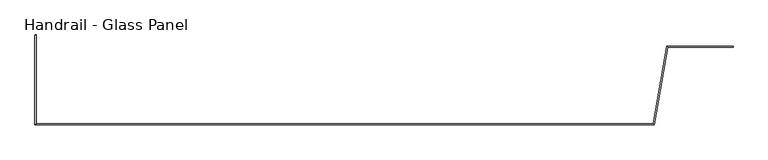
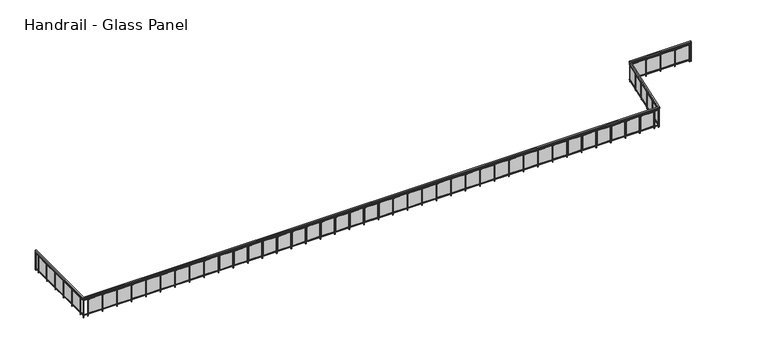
"""IFC4 building model written with IfcOpenShell, lengths in millimetres: railing geometry, Handrail - Glass Panel."""

from ifc_helpers import new_model, si_unit, point, frame, frame_2d, origin, place, context, project, spatial, polyline, circle_curve, trimmed, segment, composite_curve, outline, extrude, faceted_brep, source, transform, mapped, element, save


def handrail_glass_panel_58cbfc2e(model_context):
    return source(origin(), model_context, "Body", "SolidModel", [
        faceted_brep([(-8558.3865899, -9472.6148653, 5564.4), (-8507.5865899, -9472.6148653, 5564.4), (-8507.5865899, -9472.6148653, 5513.6), (-8558.3865899, -9472.6148653, 5513.6), (-8558.3865899, -13123.4148653, 5564.4), (-8507.5865899, -13072.6148653, 5564.4), (-8507.5865899, -13072.6148653, 5513.6), (-8558.3865899, -13123.4148653, 5513.6), (16644.6096821, -13123.4148653, 5564.4), (16601.9834209, -13072.6148653, 5564.4), (16601.9834209, -13072.6148653, 5513.6), (16644.6096821, -13123.4148653, 5513.6), (17200.0396714, -9973.4148653, 5564.4), (17157.4134101, -9922.6148653, 5564.4), (17157.4134101, -9922.6148653, 5513.6), (17200.0396714, -9973.4148653, 5513.6), (19857.4134101, -9973.4148653, 5564.4), (19857.4134101, -9973.4148653, 5513.6), (19857.4134101, -9922.6148653, 5513.6), (19857.4134101, -9922.6148653, 5564.4)], [[[0, 1, 2, 3]], [[1, 0, 4, 5]], [[2, 1, 5, 6]], [[3, 2, 6, 7]], [[0, 3, 7, 4]], [[5, 4, 8, 9]], [[6, 5, 9, 10]], [[7, 6, 10, 11]], [[4, 7, 11, 8]], [[9, 8, 12, 13]], [[10, 9, 13, 14]], [[11, 10, 14, 15]], [[8, 11, 15, 12]], [[16, 17, 18, 19]], [[13, 12, 16, 19]], [[14, 13, 19, 18]], [[15, 14, 18, 17]], [[12, 15, 17, 16]]]),
        faceted_brep([(-8545.6865899, -9472.6148653, 5462.8), (-8520.2865899, -9472.6148653, 5462.8), (-8520.2865899, -9472.6148653, 5437.4), (-8545.6865899, -9472.6148653, 5437.4), (-8545.6865899, -13110.7148653, 5462.8), (-8520.2865899, -13085.3148653, 5462.8), (-8520.2865899, -13085.3148653, 5437.4), (-8545.6865899, -13110.7148653, 5437.4), (16633.9531168, -13110.7148653, 5462.8), (16612.6399862, -13085.3148653, 5462.8), (16612.6399862, -13085.3148653, 5437.4), (16633.9531168, -13110.7148653, 5437.4), (17189.3831061, -9960.7148653, 5462.8), (17168.0699754, -9935.3148653, 5462.8), (17168.0699754, -9935.3148653, 5437.4), (17189.3831061, -9960.7148653, 5437.4), (19857.4134101, -9960.7148653, 5462.8), (19857.4134101, -9960.7148653, 5437.4), (19857.4134101, -9935.3148653, 5437.4), (19857.4134101, -9935.3148653, 5462.8)], [[[0, 1, 2, 3]], [[1, 0, 4, 5]], [[2, 1, 5, 6]], [[3, 2, 6, 7]], [[0, 3, 7, 4]], [[5, 4, 8, 9]], [[6, 5, 9, 10]], [[7, 6, 10, 11]], [[4, 7, 11, 8]], [[9, 8, 12, 13]], [[10, 9, 13, 14]], [[11, 10, 14, 15]], [[8, 11, 15, 12]], [[16, 17, 18, 19]], [[13, 12, 16, 19]], [[14, 13, 19, 18]], [[15, 14, 18, 17]], [[12, 15, 17, 16]]]),
        faceted_brep([(-8545.6865899, -9472.6148653, 4751.6), (-8520.2865899, -9472.6148653, 4751.6), (-8520.2865899, -9472.6148653, 4726.2), (-8545.6865899, -9472.6148653, 4726.2), (-8545.6865899, -13110.7148653, 4751.6), (-8520.2865899, -13085.3148653, 4751.6), (-8520.2865899, -13085.3148653, 4726.2), (-8545.6865899, -13110.7148653, 4726.2), (16633.9531168, -13110.7148653, 4751.6), (16612.6399862, -13085.3148653, 4751.6), (16612.6399862, -13085.3148653, 4726.2), (16633.9531168, -13110.7148653, 4726.2), (17189.3831061, -9960.7148653, 4751.6), (17168.0699754, -9935.3148653, 4751.6), (17168.0699754, -9935.3148653, 4726.2), (17189.3831061, -9960.7148653, 4726.2), (19857.4134101, -9960.7148653, 4751.6), (19857.4134101, -9960.7148653, 4726.2), (19857.4134101, -9935.3148653, 4726.2), (19857.4134101, -9935.3148653, 4751.6)], [[[0, 1, 2, 3]], [[1, 0, 4, 5]], [[2, 1, 5, 6]], [[3, 2, 6, 7]], [[0, 3, 7, 4]], [[5, 4, 8, 9]], [[6, 5, 9, 10]], [[7, 6, 10, 11]], [[4, 7, 11, 8]], [[9, 8, 12, 13]], [[10, 9, 13, 14]], [[11, 10, 14, 15]], [[8, 11, 15, 12]], [[16, 17, 18, 19]], [[13, 12, 16, 19]], [[14, 13, 19, 18]], [[15, 14, 18, 17]], [[12, 15, 17, 16]]]),
        extrude(outline(polyline([(19778.5449754, -9957.5398653), (19778.5449754, -9938.4898653), (19797.5949754, -9938.4898653), (19797.5949754, -9957.5398653), (19778.5449754, -9957.5398653)])), frame((0.0, 0.0, 4650.0), z_axis=(0.0, 0.0, 1.0), x_axis=(1.0, 0.0, 0.0)), (0.0, 0.0, 1.0), 863.6),
        extrude(outline(polyline([(19191.1699754, -9941.6648653), (19749.9699754, -9941.6648653), (19749.9699754, -9948.0148653), (19191.1699754, -9948.0148653), (19191.1699754, -9941.6648653)])), frame((0.0, 0.0, 4777.0), z_axis=(0.0, 0.0, 1.0), x_axis=(1.0, 0.0, 0.0)), (0.0, 0.0, 1.0), 635.0),
        extrude(outline(polyline([(19143.5449754, -9957.5398653), (19143.5449754, -9938.4898653), (19162.5949754, -9938.4898653), (19162.5949754, -9957.5398653), (19143.5449754, -9957.5398653)])), frame((0.0, 0.0, 4650.0), z_axis=(0.0, 0.0, 1.0), x_axis=(1.0, 0.0, 0.0)), (0.0, 0.0, 1.0), 863.6),
        extrude(outline(polyline([(18556.1699754, -9941.6648653), (19114.9699754, -9941.6648653), (19114.9699754, -9948.0148653), (18556.1699754, -9948.0148653), (18556.1699754, -9941.6648653)])), frame((0.0, 0.0, 4777.0), z_axis=(0.0, 0.0, 1.0), x_axis=(1.0, 0.0, 0.0)), (0.0, 0.0, 1.0), 635.0),
        extrude(outline(polyline([(18508.5449754, -9957.5398653), (18508.5449754, -9938.4898653), (18527.5949754, -9938.4898653), (18527.5949754, -9957.5398653), (18508.5449754, -9957.5398653)])), frame((0.0, 0.0, 4650.0), z_axis=(0.0, 0.0, 1.0), x_axis=(1.0, 0.0, 0.0)), (0.0, 0.0, 1.0), 863.6),
        extrude(outline(polyline([(17921.1699754, -9941.6648653), (18479.9699754, -9941.6648653), (18479.9699754, -9948.0148653), (17921.1699754, -9948.0148653), (17921.1699754, -9941.6648653)])), frame((0.0, 0.0, 4777.0), z_axis=(0.0, 0.0, 1.0), x_axis=(1.0, 0.0, 0.0)), (0.0, 0.0, 1.0), 635.0),
        extrude(outline(polyline([(17873.5449754, -9957.5398653), (17873.5449754, -9938.4898653), (17892.5949754, -9938.4898653), (17892.5949754, -9957.5398653), (17873.5449754, -9957.5398653)])), frame((0.0, 0.0, 4650.0), z_axis=(0.0, 0.0, 1.0), x_axis=(1.0, 0.0, 0.0)), (0.0, 0.0, 1.0), 863.6),
        extrude(outline(polyline([(17286.1699754, -9941.6648653), (17844.9699754, -9941.6648653), (17844.9699754, -9948.0148653), (17286.1699754, -9948.0148653), (17286.1699754, -9941.6648653)])), frame((0.0, 0.0, 4777.0), z_axis=(0.0, 0.0, 1.0), x_axis=(1.0, 0.0, 0.0)), (0.0, 0.0, 1.0), 635.0),
        extrude(outline(polyline([(17238.5449754, -9957.5398653), (17238.5449754, -9938.4898653), (17257.5949754, -9938.4898653), (17257.5949754, -9957.5398653), (17238.5449754, -9957.5398653)])), frame((0.0, 0.0, 4650.0), z_axis=(0.0, 0.0, 1.0), x_axis=(1.0, 0.0, 0.0)), (0.0, 0.0, 1.0), 863.6),
        extrude(outline(polyline([(17184.4043231, -9970.6668501), (17165.6437354, -9967.3588523), (17168.9517332, -9948.5982646), (17187.7123209, -9951.9062624), (17184.4043231, -9970.6668501)])), frame((0.0, 0.0, 4650.0), z_axis=(0.0, 0.0, 1.0), x_axis=(1.0, 0.0, 0.0)), (0.0, 0.0, 1.0), 863.6),
        extrude(outline(polyline([(17066.7739017, -10546.3616392), (17163.8085034, -9996.0510668), (17170.0620326, -9997.1537327), (17073.0274309, -10547.4643051), (17066.7739017, -10546.3616392)])), frame((0.0, 0.0, 4777.0), z_axis=(0.0, 0.0, 1.0), x_axis=(1.0, 0.0, 0.0)), (0.0, 0.0, 1.0), 635.0),
        extrude(outline(polyline([(17074.1377303, -10596.0197733), (17055.3771426, -10592.7117755), (17058.6851404, -10573.9511878), (17077.4457281, -10577.2591856), (17074.1377303, -10596.0197733)])), frame((0.0, 0.0, 4650.0), z_axis=(0.0, 0.0, 1.0), x_axis=(1.0, 0.0, 0.0)), (0.0, 0.0, 1.0), 863.6),
        extrude(outline(polyline([(16956.5073089, -11171.7145624), (17053.5419105, -10621.40399), (17059.7954398, -10622.5066559), (16962.7608381, -11172.8172283), (16956.5073089, -11171.7145624)])), frame((0.0, 0.0, 4777.0), z_axis=(0.0, 0.0, 1.0), x_axis=(1.0, 0.0, 0.0)), (0.0, 0.0, 1.0), 635.0),
        extrude(outline(polyline([(16963.8711375, -11221.3726964), (16945.1105498, -11218.0646986), (16948.4185476, -11199.3041109), (16967.1791353, -11202.6121087), (16963.8711375, -11221.3726964)])), frame((0.0, 0.0, 4650.0), z_axis=(0.0, 0.0, 1.0), x_axis=(1.0, 0.0, 0.0)), (0.0, 0.0, 1.0), 863.6),
        extrude(outline(polyline([(16846.2407161, -11797.0674855), (16943.2753177, -11246.7569131), (16949.528847, -11247.8595791), (16852.4942453, -11798.1701515), (16846.2407161, -11797.0674855)])), frame((0.0, 0.0, 4777.0), z_axis=(0.0, 0.0, 1.0), x_axis=(1.0, 0.0, 0.0)), (0.0, 0.0, 1.0), 635.0),
        extrude(outline(polyline([(16853.6045447, -11846.7256196), (16834.843957, -11843.4176218), (16838.1519548, -11824.6570341), (16856.9125425, -11827.9650319), (16853.6045447, -11846.7256196)])), frame((0.0, 0.0, 4650.0), z_axis=(0.0, 0.0, 1.0), x_axis=(1.0, 0.0, 0.0)), (0.0, 0.0, 1.0), 863.6),
        extrude(outline(polyline([(16735.9741232, -12422.4204087), (16833.0087249, -11872.1098363), (16839.2622541, -11873.2125022), (16742.2276525, -12423.5230746), (16735.9741232, -12422.4204087)])), frame((0.0, 0.0, 4777.0), z_axis=(0.0, 0.0, 1.0), x_axis=(1.0, 0.0, 0.0)), (0.0, 0.0, 1.0), 635.0),
        extrude(outline(polyline([(16743.3379519, -12472.0785427), (16724.5773642, -12468.770545), (16727.8853619, -12450.0099573), (16746.6459496, -12453.317955), (16743.3379519, -12472.0785427)])), frame((0.0, 0.0, 4650.0), z_axis=(0.0, 0.0, 1.0), x_axis=(1.0, 0.0, 0.0)), (0.0, 0.0, 1.0), 863.6),
        extrude(outline(polyline([(16625.7075304, -13047.7733318), (16722.7421321, -12497.4627595), (16728.9956613, -12498.5654254), (16631.9610596, -13048.8759978), (16625.7075304, -13047.7733318)])), frame((0.0, 0.0, 4777.0), z_axis=(0.0, 0.0, 1.0), x_axis=(1.0, 0.0, 0.0)), (0.0, 0.0, 1.0), 635.0),
        extrude(outline(polyline([(16633.071359, -13097.4314659), (16614.3107713, -13094.1234681), (16617.6187691, -13075.3628804), (16636.3793568, -13078.6708782), (16633.071359, -13097.4314659)])), frame((0.0, 0.0, 4650.0), z_axis=(0.0, 0.0, 1.0), x_axis=(1.0, 0.0, 0.0)), (0.0, 0.0, 1.0), 863.6),
        extrude(outline(polyline([(16418.1299808, -13107.5398653), (16418.1299808, -13088.4898653), (16437.1799808, -13088.4898653), (16437.1799808, -13107.5398653), (16418.1299808, -13107.5398653)])), frame((0.0, 0.0, 4650.0), z_axis=(0.0, 0.0, 1.0), x_axis=(1.0, 0.0, 0.0)), (0.0, 0.0, 1.0), 863.6),
        extrude(outline(polyline([(15830.7549808, -13091.6648653), (16389.5549808, -13091.6648653), (16389.5549808, -13098.0148653), (15830.7549808, -13098.0148653), (15830.7549808, -13091.6648653)])), frame((0.0, 0.0, 4777.0), z_axis=(0.0, 0.0, 1.0), x_axis=(1.0, 0.0, 0.0)), (0.0, 0.0, 1.0), 635.0),
        extrude(outline(polyline([(15783.1299808, -13107.5398653), (15783.1299808, -13088.4898653), (15802.1799808, -13088.4898653), (15802.1799808, -13107.5398653), (15783.1299808, -13107.5398653)])), frame((0.0, 0.0, 4650.0), z_axis=(0.0, 0.0, 1.0), x_axis=(1.0, 0.0, 0.0)), (0.0, 0.0, 1.0), 863.6),
        extrude(outline(polyline([(15195.7549808, -13091.6648653), (15754.5549808, -13091.6648653), (15754.5549808, -13098.0148653), (15195.7549808, -13098.0148653), (15195.7549808, -13091.6648653)])), frame((0.0, 0.0, 4777.0), z_axis=(0.0, 0.0, 1.0), x_axis=(1.0, 0.0, 0.0)), (0.0, 0.0, 1.0), 635.0),
        extrude(outline(polyline([(15148.1299808, -13107.5398653), (15148.1299808, -13088.4898653), (15167.1799808, -13088.4898653), (15167.1799808, -13107.5398653), (15148.1299808, -13107.5398653)])), frame((0.0, 0.0, 4650.0), z_axis=(0.0, 0.0, 1.0), x_axis=(1.0, 0.0, 0.0)), (0.0, 0.0, 1.0), 863.6),
        extrude(outline(polyline([(14560.7549808, -13091.6648653), (15119.5549808, -13091.6648653), (15119.5549808, -13098.0148653), (14560.7549808, -13098.0148653), (14560.7549808, -13091.6648653)])), frame((0.0, 0.0, 4777.0), z_axis=(0.0, 0.0, 1.0), x_axis=(1.0, 0.0, 0.0)), (0.0, 0.0, 1.0), 635.0),
        extrude(outline(polyline([(14513.1299808, -13107.5398653), (14513.1299808, -13088.4898653), (14532.1799808, -13088.4898653), (14532.1799808, -13107.5398653), (14513.1299808, -13107.5398653)])), frame((0.0, 0.0, 4650.0), z_axis=(0.0, 0.0, 1.0), x_axis=(1.0, 0.0, 0.0)), (0.0, 0.0, 1.0), 863.6),
        extrude(outline(polyline([(13925.7549808, -13091.6648653), (14484.5549808, -13091.6648653), (14484.5549808, -13098.0148653), (13925.7549808, -13098.0148653), (13925.7549808, -13091.6648653)])), frame((0.0, 0.0, 4777.0), z_axis=(0.0, 0.0, 1.0), x_axis=(1.0, 0.0, 0.0)), (0.0, 0.0, 1.0), 635.0),
        extrude(outline(polyline([(13878.1299808, -13107.5398653), (13878.1299808, -13088.4898653), (13897.1799808, -13088.4898653), (13897.1799808, -13107.5398653), (13878.1299808, -13107.5398653)])), frame((0.0, 0.0, 4650.0), z_axis=(0.0, 0.0, 1.0), x_axis=(1.0, 0.0, 0.0)), (0.0, 0.0, 1.0), 863.6),
        extrude(outline(polyline([(13290.7549808, -13091.6648653), (13849.5549808, -13091.6648653), (13849.5549808, -13098.0148653), (13290.7549808, -13098.0148653), (13290.7549808, -13091.6648653)])), frame((0.0, 0.0, 4777.0), z_axis=(0.0, 0.0, 1.0), x_axis=(1.0, 0.0, 0.0)), (0.0, 0.0, 1.0), 635.0),
        extrude(outline(polyline([(13243.1299808, -13107.5398653), (13243.1299808, -13088.4898653), (13262.1799808, -13088.4898653), (13262.1799808, -13107.5398653), (13243.1299808, -13107.5398653)])), frame((0.0, 0.0, 4650.0), z_axis=(0.0, 0.0, 1.0), x_axis=(1.0, 0.0, 0.0)), (0.0, 0.0, 1.0), 863.6),
        extrude(outline(polyline([(12655.7549808, -13091.6648653), (13214.5549808, -13091.6648653), (13214.5549808, -13098.0148653), (12655.7549808, -13098.0148653), (12655.7549808, -13091.6648653)])), frame((0.0, 0.0, 4777.0), z_axis=(0.0, 0.0, 1.0), x_axis=(1.0, 0.0, 0.0)), (0.0, 0.0, 1.0), 635.0),
        extrude(outline(polyline([(12608.1299808, -13107.5398653), (12608.1299808, -13088.4898653), (12627.1799808, -13088.4898653), (12627.1799808, -13107.5398653), (12608.1299808, -13107.5398653)])), frame((0.0, 0.0, 4650.0), z_axis=(0.0, 0.0, 1.0), x_axis=(1.0, 0.0, 0.0)), (0.0, 0.0, 1.0), 863.6),
        extrude(outline(polyline([(12020.7549808, -13091.6648653), (12579.5549808, -13091.6648653), (12579.5549808, -13098.0148653), (12020.7549808, -13098.0148653), (12020.7549808, -13091.6648653)])), frame((0.0, 0.0, 4777.0), z_axis=(0.0, 0.0, 1.0), x_axis=(1.0, 0.0, 0.0)), (0.0, 0.0, 1.0), 635.0),
        extrude(outline(polyline([(11973.1299808, -13107.5398653), (11973.1299808, -13088.4898653), (11992.1799808, -13088.4898653), (11992.1799808, -13107.5398653), (11973.1299808, -13107.5398653)])), frame((0.0, 0.0, 4650.0), z_axis=(0.0, 0.0, 1.0), x_axis=(1.0, 0.0, 0.0)), (0.0, 0.0, 1.0), 863.6),
        extrude(outline(polyline([(11385.7549808, -13091.6648653), (11944.5549808, -13091.6648653), (11944.5549808, -13098.0148653), (11385.7549808, -13098.0148653), (11385.7549808, -13091.6648653)])), frame((0.0, 0.0, 4777.0), z_axis=(0.0, 0.0, 1.0), x_axis=(1.0, 0.0, 0.0)), (0.0, 0.0, 1.0), 635.0),
        extrude(outline(polyline([(11338.1299808, -13107.5398653), (11338.1299808, -13088.4898653), (11357.1799808, -13088.4898653), (11357.1799808, -13107.5398653), (11338.1299808, -13107.5398653)])), frame((0.0, 0.0, 4650.0), z_axis=(0.0, 0.0, 1.0), x_axis=(1.0, 0.0, 0.0)), (0.0, 0.0, 1.0), 863.6),
        extrude(outline(polyline([(10750.7549808, -13091.6648653), (11309.5549808, -13091.6648653), (11309.5549808, -13098.0148653), (10750.7549808, -13098.0148653), (10750.7549808, -13091.6648653)])), frame((0.0, 0.0, 4777.0), z_axis=(0.0, 0.0, 1.0), x_axis=(1.0, 0.0, 0.0)), (0.0, 0.0, 1.0), 635.0),
        extrude(outline(polyline([(10703.1299808, -13107.5398653), (10703.1299808, -13088.4898653), (10722.1799808, -13088.4898653), (10722.1799808, -13107.5398653), (10703.1299808, -13107.5398653)])), frame((0.0, 0.0, 4650.0), z_axis=(0.0, 0.0, 1.0), x_axis=(1.0, 0.0, 0.0)), (0.0, 0.0, 1.0), 863.6),
        extrude(outline(polyline([(10115.7549808, -13091.6648653), (10674.5549808, -13091.6648653), (10674.5549808, -13098.0148653), (10115.7549808, -13098.0148653), (10115.7549808, -13091.6648653)])), frame((0.0, 0.0, 4777.0), z_axis=(0.0, 0.0, 1.0), x_axis=(1.0, 0.0, 0.0)), (0.0, 0.0, 1.0), 635.0),
        extrude(outline(polyline([(10068.1299808, -13107.5398653), (10068.1299808, -13088.4898653), (10087.1799808, -13088.4898653), (10087.1799808, -13107.5398653), (10068.1299808, -13107.5398653)])), frame((0.0, 0.0, 4650.0), z_axis=(0.0, 0.0, 1.0), x_axis=(1.0, 0.0, 0.0)), (0.0, 0.0, 1.0), 863.6),
        extrude(outline(polyline([(9480.7549808, -13091.6648653), (10039.5549808, -13091.6648653), (10039.5549808, -13098.0148653), (9480.7549808, -13098.0148653), (9480.7549808, -13091.6648653)])), frame((0.0, 0.0, 4777.0), z_axis=(0.0, 0.0, 1.0), x_axis=(1.0, 0.0, 0.0)), (0.0, 0.0, 1.0), 635.0),
        extrude(outline(polyline([(9433.1299808, -13107.5398653), (9433.1299808, -13088.4898653), (9452.1799808, -13088.4898653), (9452.1799808, -13107.5398653), (9433.1299808, -13107.5398653)])), frame((0.0, 0.0, 4650.0), z_axis=(0.0, 0.0, 1.0), x_axis=(1.0, 0.0, 0.0)), (0.0, 0.0, 1.0), 863.6),
        extrude(outline(polyline([(8845.7549808, -13091.6648653), (9404.5549808, -13091.6648653), (9404.5549808, -13098.0148653), (8845.7549808, -13098.0148653), (8845.7549808, -13091.6648653)])), frame((0.0, 0.0, 4777.0), z_axis=(0.0, 0.0, 1.0), x_axis=(1.0, 0.0, 0.0)), (0.0, 0.0, 1.0), 635.0),
        extrude(outline(polyline([(8798.1299808, -13107.5398653), (8798.1299808, -13088.4898653), (8817.1799808, -13088.4898653), (8817.1799808, -13107.5398653), (8798.1299808, -13107.5398653)])), frame((0.0, 0.0, 4650.0), z_axis=(0.0, 0.0, 1.0), x_axis=(1.0, 0.0, 0.0)), (0.0, 0.0, 1.0), 863.6),
        extrude(outline(polyline([(8210.7549808, -13091.6648653), (8769.5549808, -13091.6648653), (8769.5549808, -13098.0148653), (8210.7549808, -13098.0148653), (8210.7549808, -13091.6648653)])), frame((0.0, 0.0, 4777.0), z_axis=(0.0, 0.0, 1.0), x_axis=(1.0, 0.0, 0.0)), (0.0, 0.0, 1.0), 635.0),
        extrude(outline(polyline([(8163.1299808, -13107.5398653), (8163.1299808, -13088.4898653), (8182.1799808, -13088.4898653), (8182.1799808, -13107.5398653), (8163.1299808, -13107.5398653)])), frame((0.0, 0.0, 4650.0), z_axis=(0.0, 0.0, 1.0), x_axis=(1.0, 0.0, 0.0)), (0.0, 0.0, 1.0), 863.6),
        extrude(outline(polyline([(7575.7549808, -13091.6648653), (8134.5549808, -13091.6648653), (8134.5549808, -13098.0148653), (7575.7549808, -13098.0148653), (7575.7549808, -13091.6648653)])), frame((0.0, 0.0, 4777.0), z_axis=(0.0, 0.0, 1.0), x_axis=(1.0, 0.0, 0.0)), (0.0, 0.0, 1.0), 635.0),
        extrude(outline(polyline([(7528.1299808, -13107.5398653), (7528.1299808, -13088.4898653), (7547.1799808, -13088.4898653), (7547.1799808, -13107.5398653), (7528.1299808, -13107.5398653)])), frame((0.0, 0.0, 4650.0), z_axis=(0.0, 0.0, 1.0), x_axis=(1.0, 0.0, 0.0)), (0.0, 0.0, 1.0), 863.6),
        extrude(outline(polyline([(6940.7549808, -13091.6648653), (7499.5549808, -13091.6648653), (7499.5549808, -13098.0148653), (6940.7549808, -13098.0148653), (6940.7549808, -13091.6648653)])), frame((0.0, 0.0, 4777.0), z_axis=(0.0, 0.0, 1.0), x_axis=(1.0, 0.0, 0.0)), (0.0, 0.0, 1.0), 635.0),
        extrude(outline(polyline([(6893.1299808, -13107.5398653), (6893.1299808, -13088.4898653), (6912.1799808, -13088.4898653), (6912.1799808, -13107.5398653), (6893.1299808, -13107.5398653)])), frame((0.0, 0.0, 4650.0), z_axis=(0.0, 0.0, 1.0), x_axis=(1.0, 0.0, 0.0)), (0.0, 0.0, 1.0), 863.6),
        extrude(outline(polyline([(6305.7549808, -13091.6648653), (6864.5549808, -13091.6648653), (6864.5549808, -13098.0148653), (6305.7549808, -13098.0148653), (6305.7549808, -13091.6648653)])), frame((0.0, 0.0, 4777.0), z_axis=(0.0, 0.0, 1.0), x_axis=(1.0, 0.0, 0.0)), (0.0, 0.0, 1.0), 635.0),
        extrude(outline(polyline([(6258.1299808, -13107.5398653), (6258.1299808, -13088.4898653), (6277.1799808, -13088.4898653), (6277.1799808, -13107.5398653), (6258.1299808, -13107.5398653)])), frame((0.0, 0.0, 4650.0), z_axis=(0.0, 0.0, 1.0), x_axis=(1.0, 0.0, 0.0)), (0.0, 0.0, 1.0), 863.6),
        extrude(outline(polyline([(5670.7549808, -13091.6648653), (6229.5549808, -13091.6648653), (6229.5549808, -13098.0148653), (5670.7549808, -13098.0148653), (5670.7549808, -13091.6648653)])), frame((0.0, 0.0, 4777.0), z_axis=(0.0, 0.0, 1.0), x_axis=(1.0, 0.0, 0.0)), (0.0, 0.0, 1.0), 635.0),
        extrude(outline(polyline([(5623.1299808, -13107.5398653), (5623.1299808, -13088.4898653), (5642.1799808, -13088.4898653), (5642.1799808, -13107.5398653), (5623.1299808, -13107.5398653)])), frame((0.0, 0.0, 4650.0), z_axis=(0.0, 0.0, 1.0), x_axis=(1.0, 0.0, 0.0)), (0.0, 0.0, 1.0), 863.6),
        extrude(outline(polyline([(5035.7549808, -13091.6648653), (5594.5549808, -13091.6648653), (5594.5549808, -13098.0148653), (5035.7549808, -13098.0148653), (5035.7549808, -13091.6648653)])), frame((0.0, 0.0, 4777.0), z_axis=(0.0, 0.0, 1.0), x_axis=(1.0, 0.0, 0.0)), (0.0, 0.0, 1.0), 635.0),
        extrude(outline(polyline([(4988.1299808, -13107.5398653), (4988.1299808, -13088.4898653), (5007.1799808, -13088.4898653), (5007.1799808, -13107.5398653), (4988.1299808, -13107.5398653)])), frame((0.0, 0.0, 4650.0), z_axis=(0.0, 0.0, 1.0), x_axis=(1.0, 0.0, 0.0)), (0.0, 0.0, 1.0), 863.6),
        extrude(outline(polyline([(4400.7549808, -13091.6648653), (4959.5549808, -13091.6648653), (4959.5549808, -13098.0148653), (4400.7549808, -13098.0148653), (4400.7549808, -13091.6648653)])), frame((0.0, 0.0, 4777.0), z_axis=(0.0, 0.0, 1.0), x_axis=(1.0, 0.0, 0.0)), (0.0, 0.0, 1.0), 635.0),
        extrude(outline(polyline([(4353.1299808, -13107.5398653), (4353.1299808, -13088.4898653), (4372.1799808, -13088.4898653), (4372.1799808, -13107.5398653), (4353.1299808, -13107.5398653)])), frame((0.0, 0.0, 4650.0), z_axis=(0.0, 0.0, 1.0), x_axis=(1.0, 0.0, 0.0)), (0.0, 0.0, 1.0), 863.6),
        extrude(outline(polyline([(3765.7549808, -13091.6648653), (4324.5549808, -13091.6648653), (4324.5549808, -13098.0148653), (3765.7549808, -13098.0148653), (3765.7549808, -13091.6648653)])), frame((0.0, 0.0, 4777.0), z_axis=(0.0, 0.0, 1.0), x_axis=(1.0, 0.0, 0.0)), (0.0, 0.0, 1.0), 635.0),
        extrude(outline(polyline([(3718.1299808, -13107.5398653), (3718.1299808, -13088.4898653), (3737.1799808, -13088.4898653), (3737.1799808, -13107.5398653), (3718.1299808, -13107.5398653)])), frame((0.0, 0.0, 4650.0), z_axis=(0.0, 0.0, 1.0), x_axis=(1.0, 0.0, 0.0)), (0.0, 0.0, 1.0), 863.6),
        extrude(outline(polyline([(3130.7549808, -13091.6648653), (3689.5549808, -13091.6648653), (3689.5549808, -13098.0148653), (3130.7549808, -13098.0148653), (3130.7549808, -13091.6648653)])), frame((0.0, 0.0, 4777.0), z_axis=(0.0, 0.0, 1.0), x_axis=(1.0, 0.0, 0.0)), (0.0, 0.0, 1.0), 635.0),
        extrude(outline(polyline([(3083.1299808, -13107.5398653), (3083.1299808, -13088.4898653), (3102.1799808, -13088.4898653), (3102.1799808, -13107.5398653), (3083.1299808, -13107.5398653)])), frame((0.0, 0.0, 4650.0), z_axis=(0.0, 0.0, 1.0), x_axis=(1.0, 0.0, 0.0)), (0.0, 0.0, 1.0), 863.6),
        extrude(outline(polyline([(2495.7549808, -13091.6648653), (3054.5549808, -13091.6648653), (3054.5549808, -13098.0148653), (2495.7549808, -13098.0148653), (2495.7549808, -13091.6648653)])), frame((0.0, 0.0, 4777.0), z_axis=(0.0, 0.0, 1.0), x_axis=(1.0, 0.0, 0.0)), (0.0, 0.0, 1.0), 635.0),
        extrude(outline(polyline([(2448.1299808, -13107.5398653), (2448.1299808, -13088.4898653), (2467.1799808, -13088.4898653), (2467.1799808, -13107.5398653), (2448.1299808, -13107.5398653)])), frame((0.0, 0.0, 4650.0), z_axis=(0.0, 0.0, 1.0), x_axis=(1.0, 0.0, 0.0)), (0.0, 0.0, 1.0), 863.6),
        extrude(outline(polyline([(1860.7549808, -13091.6648653), (2419.5549808, -13091.6648653), (2419.5549808, -13098.0148653), (1860.7549808, -13098.0148653), (1860.7549808, -13091.6648653)])), frame((0.0, 0.0, 4777.0), z_axis=(0.0, 0.0, 1.0), x_axis=(1.0, 0.0, 0.0)), (0.0, 0.0, 1.0), 635.0),
        extrude(outline(polyline([(1813.1299808, -13107.5398653), (1813.1299808, -13088.4898653), (1832.1799808, -13088.4898653), (1832.1799808, -13107.5398653), (1813.1299808, -13107.5398653)])), frame((0.0, 0.0, 4650.0), z_axis=(0.0, 0.0, 1.0), x_axis=(1.0, 0.0, 0.0)), (0.0, 0.0, 1.0), 863.6),
        extrude(outline(polyline([(1225.7549808, -13091.6648653), (1784.5549808, -13091.6648653), (1784.5549808, -13098.0148653), (1225.7549808, -13098.0148653), (1225.7549808, -13091.6648653)])), frame((0.0, 0.0, 4777.0), z_axis=(0.0, 0.0, 1.0), x_axis=(1.0, 0.0, 0.0)), (0.0, 0.0, 1.0), 635.0),
        extrude(outline(polyline([(1178.1299808, -13107.5398653), (1178.1299808, -13088.4898653), (1197.1799808, -13088.4898653), (1197.1799808, -13107.5398653), (1178.1299808, -13107.5398653)])), frame((0.0, 0.0, 4650.0), z_axis=(0.0, 0.0, 1.0), x_axis=(1.0, 0.0, 0.0)), (0.0, 0.0, 1.0), 863.6),
        extrude(outline(polyline([(590.7549808, -13091.6648653), (1149.5549808, -13091.6648653), (1149.5549808, -13098.0148653), (590.7549808, -13098.0148653), (590.7549808, -13091.6648653)])), frame((0.0, 0.0, 4777.0), z_axis=(0.0, 0.0, 1.0), x_axis=(1.0, 0.0, 0.0)), (0.0, 0.0, 1.0), 635.0),
        extrude(outline(polyline([(543.1299808, -13107.5398653), (543.1299808, -13088.4898653), (562.1799808, -13088.4898653), (562.1799808, -13107.5398653), (543.1299808, -13107.5398653)])), frame((0.0, 0.0, 4650.0), z_axis=(0.0, 0.0, 1.0), x_axis=(1.0, 0.0, 0.0)), (0.0, 0.0, 1.0), 863.6),
        extrude(outline(polyline([(-44.2450192, -13091.6648653), (514.5549808, -13091.6648653), (514.5549808, -13098.0148653), (-44.2450192, -13098.0148653), (-44.2450192, -13091.6648653)])), frame((0.0, 0.0, 4777.0), z_axis=(0.0, 0.0, 1.0), x_axis=(1.0, 0.0, 0.0)), (0.0, 0.0, 1.0), 635.0),
        extrude(outline(polyline([(-91.8700192, -13107.5398653), (-91.8700192, -13088.4898653), (-72.8200192, -13088.4898653), (-72.8200192, -13107.5398653), (-91.8700192, -13107.5398653)])), frame((0.0, 0.0, 4650.0), z_axis=(0.0, 0.0, 1.0), x_axis=(1.0, 0.0, 0.0)), (0.0, 0.0, 1.0), 863.6),
        extrude(outline(polyline([(-679.2450192, -13091.6648653), (-120.4450192, -13091.6648653), (-120.4450192, -13098.0148653), (-679.2450192, -13098.0148653), (-679.2450192, -13091.6648653)])), frame((0.0, 0.0, 4777.0), z_axis=(0.0, 0.0, 1.0), x_axis=(1.0, 0.0, 0.0)), (0.0, 0.0, 1.0), 635.0),
        extrude(outline(polyline([(-726.8700192, -13107.5398653), (-726.8700192, -13088.4898653), (-707.8200192, -13088.4898653), (-707.8200192, -13107.5398653), (-726.8700192, -13107.5398653)])), frame((0.0, 0.0, 4650.0), z_axis=(0.0, 0.0, 1.0), x_axis=(1.0, 0.0, 0.0)), (0.0, 0.0, 1.0), 863.6),
        extrude(outline(polyline([(-1314.2450192, -13091.6648653), (-755.4450192, -13091.6648653), (-755.4450192, -13098.0148653), (-1314.2450192, -13098.0148653), (-1314.2450192, -13091.6648653)])), frame((0.0, 0.0, 4777.0), z_axis=(0.0, 0.0, 1.0), x_axis=(1.0, 0.0, 0.0)), (0.0, 0.0, 1.0), 635.0),
        extrude(outline(polyline([(-1361.8700192, -13107.5398653), (-1361.8700192, -13088.4898653), (-1342.8200192, -13088.4898653), (-1342.8200192, -13107.5398653), (-1361.8700192, -13107.5398653)])), frame((0.0, 0.0, 4650.0), z_axis=(0.0, 0.0, 1.0), x_axis=(1.0, 0.0, 0.0)), (0.0, 0.0, 1.0), 863.6),
        extrude(outline(polyline([(-1949.2450192, -13091.6648653), (-1390.4450192, -13091.6648653), (-1390.4450192, -13098.0148653), (-1949.2450192, -13098.0148653), (-1949.2450192, -13091.6648653)])), frame((0.0, 0.0, 4777.0), z_axis=(0.0, 0.0, 1.0), x_axis=(1.0, 0.0, 0.0)), (0.0, 0.0, 1.0), 635.0),
        extrude(outline(polyline([(-1996.8700192, -13107.5398653), (-1996.8700192, -13088.4898653), (-1977.8200192, -13088.4898653), (-1977.8200192, -13107.5398653), (-1996.8700192, -13107.5398653)])), frame((0.0, 0.0, 4650.0), z_axis=(0.0, 0.0, 1.0), x_axis=(1.0, 0.0, 0.0)), (0.0, 0.0, 1.0), 863.6),
        extrude(outline(polyline([(-2584.2450192, -13091.6648653), (-2025.4450192, -13091.6648653), (-2025.4450192, -13098.0148653), (-2584.2450192, -13098.0148653), (-2584.2450192, -13091.6648653)])), frame((0.0, 0.0, 4777.0), z_axis=(0.0, 0.0, 1.0), x_axis=(1.0, 0.0, 0.0)), (0.0, 0.0, 1.0), 635.0),
        extrude(outline(polyline([(-2631.8700192, -13107.5398653), (-2631.8700192, -13088.4898653), (-2612.8200192, -13088.4898653), (-2612.8200192, -13107.5398653), (-2631.8700192, -13107.5398653)])), frame((0.0, 0.0, 4650.0), z_axis=(0.0, 0.0, 1.0), x_axis=(1.0, 0.0, 0.0)), (0.0, 0.0, 1.0), 863.6),
        extrude(outline(polyline([(-3219.2450192, -13091.6648653), (-2660.4450192, -13091.6648653), (-2660.4450192, -13098.0148653), (-3219.2450192, -13098.0148653), (-3219.2450192, -13091.6648653)])), frame((0.0, 0.0, 4777.0), z_axis=(0.0, 0.0, 1.0), x_axis=(1.0, 0.0, 0.0)), (0.0, 0.0, 1.0), 635.0),
        extrude(outline(polyline([(-3266.8700192, -13107.5398653), (-3266.8700192, -13088.4898653), (-3247.8200192, -13088.4898653), (-3247.8200192, -13107.5398653), (-3266.8700192, -13107.5398653)])), frame((0.0, 0.0, 4650.0), z_axis=(0.0, 0.0, 1.0), x_axis=(1.0, 0.0, 0.0)), (0.0, 0.0, 1.0), 863.6),
        extrude(outline(polyline([(-3854.2450192, -13091.6648653), (-3295.4450192, -13091.6648653), (-3295.4450192, -13098.0148653), (-3854.2450192, -13098.0148653), (-3854.2450192, -13091.6648653)])), frame((0.0, 0.0, 4777.0), z_axis=(0.0, 0.0, 1.0), x_axis=(1.0, 0.0, 0.0)), (0.0, 0.0, 1.0), 635.0),
        extrude(outline(polyline([(-3901.8700192, -13107.5398653), (-3901.8700192, -13088.4898653), (-3882.8200192, -13088.4898653), (-3882.8200192, -13107.5398653), (-3901.8700192, -13107.5398653)])), frame((0.0, 0.0, 4650.0), z_axis=(0.0, 0.0, 1.0), x_axis=(1.0, 0.0, 0.0)), (0.0, 0.0, 1.0), 863.6),
        extrude(outline(polyline([(-4489.2450192, -13091.6648653), (-3930.4450192, -13091.6648653), (-3930.4450192, -13098.0148653), (-4489.2450192, -13098.0148653), (-4489.2450192, -13091.6648653)])), frame((0.0, 0.0, 4777.0), z_axis=(0.0, 0.0, 1.0), x_axis=(1.0, 0.0, 0.0)), (0.0, 0.0, 1.0), 635.0),
        extrude(outline(polyline([(-4536.8700192, -13107.5398653), (-4536.8700192, -13088.4898653), (-4517.8200192, -13088.4898653), (-4517.8200192, -13107.5398653), (-4536.8700192, -13107.5398653)])), frame((0.0, 0.0, 4650.0), z_axis=(0.0, 0.0, 1.0), x_axis=(1.0, 0.0, 0.0)), (0.0, 0.0, 1.0), 863.6),
        extrude(outline(polyline([(-5124.2450192, -13091.6648653), (-4565.4450192, -13091.6648653), (-4565.4450192, -13098.0148653), (-5124.2450192, -13098.0148653), (-5124.2450192, -13091.6648653)])), frame((0.0, 0.0, 4777.0), z_axis=(0.0, 0.0, 1.0), x_axis=(1.0, 0.0, 0.0)), (0.0, 0.0, 1.0), 635.0),
        extrude(outline(polyline([(-5171.8700192, -13107.5398653), (-5171.8700192, -13088.4898653), (-5152.8200192, -13088.4898653), (-5152.8200192, -13107.5398653), (-5171.8700192, -13107.5398653)])), frame((0.0, 0.0, 4650.0), z_axis=(0.0, 0.0, 1.0), x_axis=(1.0, 0.0, 0.0)), (0.0, 0.0, 1.0), 863.6),
        extrude(outline(polyline([(-5759.2450192, -13091.6648653), (-5200.4450192, -13091.6648653), (-5200.4450192, -13098.0148653), (-5759.2450192, -13098.0148653), (-5759.2450192, -13091.6648653)])), frame((0.0, 0.0, 4777.0), z_axis=(0.0, 0.0, 1.0), x_axis=(1.0, 0.0, 0.0)), (0.0, 0.0, 1.0), 635.0),
        extrude(outline(polyline([(-5806.8700192, -13107.5398653), (-5806.8700192, -13088.4898653), (-5787.8200192, -13088.4898653), (-5787.8200192, -13107.5398653), (-5806.8700192, -13107.5398653)])), frame((0.0, 0.0, 4650.0), z_axis=(0.0, 0.0, 1.0), x_axis=(1.0, 0.0, 0.0)), (0.0, 0.0, 1.0), 863.6),
        extrude(outline(polyline([(-6394.2450192, -13091.6648653), (-5835.4450192, -13091.6648653), (-5835.4450192, -13098.0148653), (-6394.2450192, -13098.0148653), (-6394.2450192, -13091.6648653)])), frame((0.0, 0.0, 4777.0), z_axis=(0.0, 0.0, 1.0), x_axis=(1.0, 0.0, 0.0)), (0.0, 0.0, 1.0), 635.0),
        extrude(outline(polyline([(-6441.8700192, -13107.5398653), (-6441.8700192, -13088.4898653), (-6422.8200192, -13088.4898653), (-6422.8200192, -13107.5398653), (-6441.8700192, -13107.5398653)])), frame((0.0, 0.0, 4650.0), z_axis=(0.0, 0.0, 1.0), x_axis=(1.0, 0.0, 0.0)), (0.0, 0.0, 1.0), 863.6),
        extrude(outline(polyline([(-7029.2450192, -13091.6648653), (-6470.4450192, -13091.6648653), (-6470.4450192, -13098.0148653), (-7029.2450192, -13098.0148653), (-7029.2450192, -13091.6648653)])), frame((0.0, 0.0, 4777.0), z_axis=(0.0, 0.0, 1.0), x_axis=(1.0, 0.0, 0.0)), (0.0, 0.0, 1.0), 635.0),
        extrude(outline(polyline([(-7076.8700192, -13107.5398653), (-7076.8700192, -13088.4898653), (-7057.8200192, -13088.4898653), (-7057.8200192, -13107.5398653), (-7076.8700192, -13107.5398653)])), frame((0.0, 0.0, 4650.0), z_axis=(0.0, 0.0, 1.0), x_axis=(1.0, 0.0, 0.0)), (0.0, 0.0, 1.0), 863.6),
        extrude(outline(polyline([(-7664.2450192, -13091.6648653), (-7105.4450192, -13091.6648653), (-7105.4450192, -13098.0148653), (-7664.2450192, -13098.0148653), (-7664.2450192, -13091.6648653)])), frame((0.0, 0.0, 4777.0), z_axis=(0.0, 0.0, 1.0), x_axis=(1.0, 0.0, 0.0)), (0.0, 0.0, 1.0), 635.0),
        extrude(outline(polyline([(-7711.8700192, -13107.5398653), (-7711.8700192, -13088.4898653), (-7692.8200192, -13088.4898653), (-7692.8200192, -13107.5398653), (-7711.8700192, -13107.5398653)])), frame((0.0, 0.0, 4650.0), z_axis=(0.0, 0.0, 1.0), x_axis=(1.0, 0.0, 0.0)), (0.0, 0.0, 1.0), 863.6),
        extrude(outline(polyline([(-8299.2450192, -13091.6648653), (-7740.4450192, -13091.6648653), (-7740.4450192, -13098.0148653), (-8299.2450192, -13098.0148653), (-8299.2450192, -13091.6648653)])), frame((0.0, 0.0, 4777.0), z_axis=(0.0, 0.0, 1.0), x_axis=(1.0, 0.0, 0.0)), (0.0, 0.0, 1.0), 635.0),
        extrude(outline(polyline([(-8346.8700192, -13107.5398653), (-8346.8700192, -13088.4898653), (-8327.8200192, -13088.4898653), (-8327.8200192, -13107.5398653), (-8346.8700192, -13107.5398653)])), frame((0.0, 0.0, 4650.0), z_axis=(0.0, 0.0, 1.0), x_axis=(1.0, 0.0, 0.0)), (0.0, 0.0, 1.0), 863.6),
        extrude(outline(polyline([(-8542.5115899, -12863.2898653), (-8523.4615899, -12863.2898653), (-8523.4615899, -12882.3398653), (-8542.5115899, -12882.3398653), (-8542.5115899, -12863.2898653)])), frame((0.0, 0.0, 4650.0), z_axis=(0.0, 0.0, 1.0), x_axis=(1.0, 0.0, 0.0)), (0.0, 0.0, 1.0), 863.6),
        extrude(outline(polyline([(-8526.6365899, -12275.9148653), (-8526.6365899, -12834.7148653), (-8532.9865899, -12834.7148653), (-8532.9865899, -12275.9148653), (-8526.6365899, -12275.9148653)])), frame((0.0, 0.0, 4777.0), z_axis=(0.0, 0.0, 1.0), x_axis=(1.0, 0.0, 0.0)), (0.0, 0.0, 1.0), 635.0),
        extrude(outline(polyline([(-8542.5115899, -12228.2898653), (-8523.4615899, -12228.2898653), (-8523.4615899, -12247.3398653), (-8542.5115899, -12247.3398653), (-8542.5115899, -12228.2898653)])), frame((0.0, 0.0, 4650.0), z_axis=(0.0, 0.0, 1.0), x_axis=(1.0, 0.0, 0.0)), (0.0, 0.0, 1.0), 863.6),
        extrude(outline(polyline([(-8526.6365899, -11640.9148653), (-8526.6365899, -12199.7148653), (-8532.9865899, -12199.7148653), (-8532.9865899, -11640.9148653), (-8526.6365899, -11640.9148653)])), frame((0.0, 0.0, 4777.0), z_axis=(0.0, 0.0, 1.0), x_axis=(1.0, 0.0, 0.0)), (0.0, 0.0, 1.0), 635.0),
        extrude(outline(polyline([(-8542.5115899, -11593.2898653), (-8523.4615899, -11593.2898653), (-8523.4615899, -11612.3398653), (-8542.5115899, -11612.3398653), (-8542.5115899, -11593.2898653)])), frame((0.0, 0.0, 4650.0), z_axis=(0.0, 0.0, 1.0), x_axis=(1.0, 0.0, 0.0)), (0.0, 0.0, 1.0), 863.6),
        extrude(outline(polyline([(-8526.6365899, -11005.9148653), (-8526.6365899, -11564.7148653), (-8532.9865899, -11564.7148653), (-8532.9865899, -11005.9148653), (-8526.6365899, -11005.9148653)])), frame((0.0, 0.0, 4777.0), z_axis=(0.0, 0.0, 1.0), x_axis=(1.0, 0.0, 0.0)), (0.0, 0.0, 1.0), 635.0),
        extrude(outline(polyline([(-8542.5115899, -10958.2898653), (-8523.4615899, -10958.2898653), (-8523.4615899, -10977.3398653), (-8542.5115899, -10977.3398653), (-8542.5115899, -10958.2898653)])), frame((0.0, 0.0, 4650.0), z_axis=(0.0, 0.0, 1.0), x_axis=(1.0, 0.0, 0.0)), (0.0, 0.0, 1.0), 863.6),
        extrude(outline(polyline([(-8526.6365899, -10370.9148653), (-8526.6365899, -10929.7148653), (-8532.9865899, -10929.7148653), (-8532.9865899, -10370.9148653), (-8526.6365899, -10370.9148653)])), frame((0.0, 0.0, 4777.0), z_axis=(0.0, 0.0, 1.0), x_axis=(1.0, 0.0, 0.0)), (0.0, 0.0, 1.0), 635.0),
        extrude(outline(polyline([(-8542.5115899, -10323.2898653), (-8523.4615899, -10323.2898653), (-8523.4615899, -10342.3398653), (-8542.5115899, -10342.3398653), (-8542.5115899, -10323.2898653)])), frame((0.0, 0.0, 4650.0), z_axis=(0.0, 0.0, 1.0), x_axis=(1.0, 0.0, 0.0)), (0.0, 0.0, 1.0), 863.6),
        extrude(outline(polyline([(-8526.6365899, -9735.9148653), (-8526.6365899, -10294.7148653), (-8532.9865899, -10294.7148653), (-8532.9865899, -9735.9148653), (-8526.6365899, -9735.9148653)])), frame((0.0, 0.0, 4777.0), z_axis=(0.0, 0.0, 1.0), x_axis=(1.0, 0.0, 0.0)), (0.0, 0.0, 1.0), 635.0),
        extrude(outline(polyline([(-8542.5115899, -9688.2898653), (-8523.4615899, -9688.2898653), (-8523.4615899, -9707.3398653), (-8542.5115899, -9707.3398653), (-8542.5115899, -9688.2898653)])), frame((0.0, 0.0, 4650.0), z_axis=(0.0, 0.0, 1.0), x_axis=(1.0, 0.0, 0.0)), (0.0, 0.0, 1.0), 863.6),
        extrude(outline(composite_curve([segment(trimmed(circle_curve(frame_2d((17178.7265407, -9948.0148653)), 12.7), [point((17166.2194823, -9945.8095334))], [point((17191.2335992, -9950.2201971))], False, "CARTESIAN"), True, "CONTINUOUS"), segment(trimmed(circle_curve(frame_2d((17178.7265407, -9948.0148653)), 12.7), [point((17191.2335992, -9950.2201971))], [point((17166.2194823, -9945.8095334))], False, "CARTESIAN"), True, "CONTINUOUS")], self_intersect=False)), frame((0.0, 0.0, 4650.0), z_axis=(0.0, 0.0, 1.0), x_axis=(1.0, 0.0, 0.0)), (0.0, 0.0, 1.0), 863.6),
        extrude(outline(composite_curve([segment(trimmed(circle_curve(frame_2d((16623.2965515, -13098.0148653)), 12.7), [point((16623.2965515, -13085.3148653))], [point((16623.2965515, -13110.7148653))], False, "CARTESIAN"), True, "CONTINUOUS"), segment(trimmed(circle_curve(frame_2d((16623.2965515, -13098.0148653)), 12.7), [point((16623.2965515, -13110.7148653))], [point((16623.2965515, -13085.3148653))], False, "CARTESIAN"), True, "CONTINUOUS")], self_intersect=False)), frame((0.0, 0.0, 4650.0), z_axis=(0.0, 0.0, 1.0), x_axis=(1.0, 0.0, 0.0)), (0.0, 0.0, 1.0), 863.6),
        extrude(outline(composite_curve([segment(trimmed(circle_curve(frame_2d((-8532.9865899, -13098.0148653)), 12.7), [point((-8520.2865899, -13098.0148653))], [point((-8545.6865899, -13098.0148653))], False, "CARTESIAN"), True, "CONTINUOUS"), segment(trimmed(circle_curve(frame_2d((-8532.9865899, -13098.0148653)), 12.7), [point((-8545.6865899, -13098.0148653))], [point((-8520.2865899, -13098.0148653))], False, "CARTESIAN"), True, "CONTINUOUS")], self_intersect=False)), frame((0.0, 0.0, 4650.0), z_axis=(0.0, 0.0, 1.0), x_axis=(1.0, 0.0, 0.0)), (0.0, 0.0, 1.0), 863.6),
        extrude(outline(composite_curve([segment(trimmed(circle_curve(frame_2d((19847.8884101, -9948.0148653)), 12.7), [point((19847.8884101, -9935.3148653))], [point((19847.8884101, -9960.7148653))], False, "CARTESIAN"), True, "CONTINUOUS"), segment(trimmed(circle_curve(frame_2d((19847.8884101, -9948.0148653)), 12.7), [point((19847.8884101, -9960.7148653))], [point((19847.8884101, -9935.3148653))], False, "CARTESIAN"), True, "CONTINUOUS")], self_intersect=False)), frame((0.0, 0.0, 4650.0), z_axis=(0.0, 0.0, 1.0), x_axis=(1.0, 0.0, 0.0)), (0.0, 0.0, 1.0), 863.6),
        extrude(outline(polyline([(-8552.0365899, -9463.0898653), (-8513.9365899, -9463.0898653), (-8513.9365899, -9501.1898653), (-8552.0365899, -9501.1898653), (-8552.0365899, -9463.0898653)])), frame((0.0, 0.0, 4650.0), z_axis=(0.0, 0.0, 1.0), x_axis=(1.0, 0.0, 0.0)), (0.0, 0.0, 1.0), 863.6),
    ])


if __name__ == "__main__":
    model = new_model("IFC4")
    model_context = context("Model", 3, world=origin())
    ifc_project = project(units=[si_unit("LENGTHUNIT", "METRE", prefix="MILLI")], contexts=[model_context])
    site = spatial("IfcSite", under=ifc_project)
    building = spatial("IfcBuilding", under=site)
    placement = place(None, origin())
    handrail_glass_panel_shape = handrail_glass_panel_58cbfc2e(model_context)
    element("IfcRailing", 1, ObjectType="Handrail - Glass Panel", at=placement, inside=building, context=model_context, shape_type="MappedRepresentation", body=[
        mapped(handrail_glass_panel_shape, transform((0.0, 0.0, 0.0), x_axis=(1.0, 0.0, 0.0), y_axis=(0.0, 1.0, 0.0), z_axis=(0.0, 0.0, 1.0))),
    ])
    save(model, "model.ifc")
